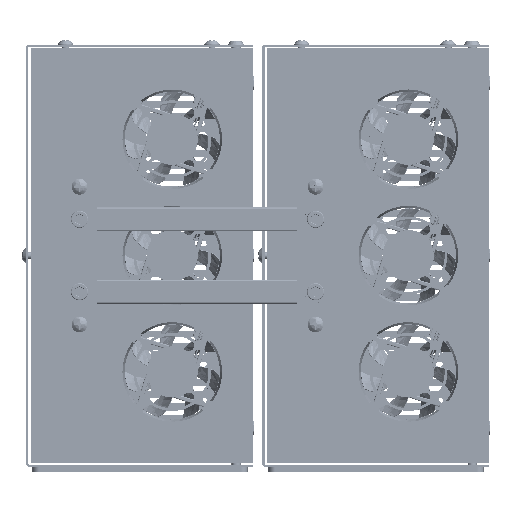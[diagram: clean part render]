
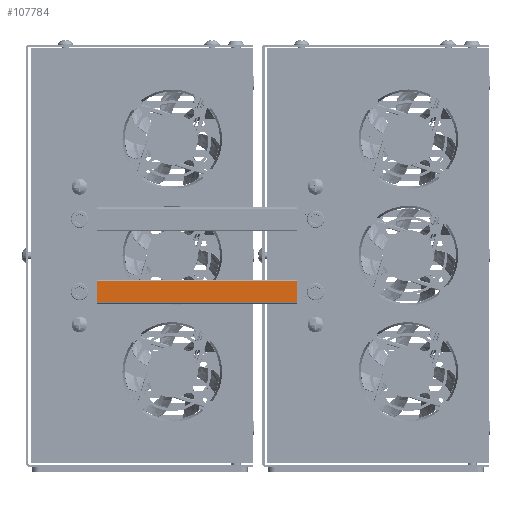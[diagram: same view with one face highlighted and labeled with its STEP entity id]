
A CAD part, left-side view. The second image highlights one B-rep face of the part: STEP entity #107784.
In plain terms, the highlighted planar face has unit normal (-1, 0, 0).
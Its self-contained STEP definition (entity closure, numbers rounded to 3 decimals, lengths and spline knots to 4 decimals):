
#9738=FACE_OUTER_BOUND('',#15702,.T.);
#15702=EDGE_LOOP('',(#72613,#72614,#72615,#72616));
#27279=LINE('',#154731,#36523);
#27280=LINE('',#154734,#36524);
#27281=LINE('',#154736,#36525);
#27282=LINE('',#154737,#36526);
#36523=VECTOR('',#124553,0.3937);
#36524=VECTOR('',#124556,0.3937);
#36525=VECTOR('',#124557,0.3937);
#36526=VECTOR('',#124558,0.3937);
#45755=VERTEX_POINT('',#154727);
#45756=VERTEX_POINT('',#154729);
#45757=VERTEX_POINT('',#154733);
#45758=VERTEX_POINT('',#154735);
#56313=EDGE_CURVE('',#45755,#45756,#27279,.T.);
#56314=EDGE_CURVE('',#45755,#45757,#27280,.T.);
#56315=EDGE_CURVE('',#45758,#45756,#27281,.T.);
#56316=EDGE_CURVE('',#45757,#45758,#27282,.T.);
#72613=ORIENTED_EDGE('',*,*,#56314,.F.);
#72614=ORIENTED_EDGE('',*,*,#56313,.T.);
#72615=ORIENTED_EDGE('',*,*,#56315,.F.);
#72616=ORIENTED_EDGE('',*,*,#56316,.F.);
#104613=PLANE('',#113816);
#107784=ADVANCED_FACE('',(#9738),#104613,.T.);
#113816=AXIS2_PLACEMENT_3D('',#154732,#124554,#124555);
#124553=DIRECTION('',(0.,1.,0.));
#124554=DIRECTION('center_axis',(-1.,0.,0.));
#124555=DIRECTION('ref_axis',(0.,0.,
1.));
#124556=DIRECTION('',(0.,0.,-1.));
#124557=DIRECTION('',(0.,0.,1.));
#124558=DIRECTION('',(0.,1.,0.));
#154727=CARTESIAN_POINT('',(-5.487,1.8204,-0.5793));
#154729=CARTESIAN_POINT('',(-5.487,6.3735,-0.5793));
#154731=CARTESIAN_POINT('',(-5.487,1.8204,-0.5793));
#154732=CARTESIAN_POINT('Origin',(-5.487,1.8204,-1.0518));
#154733=CARTESIAN_POINT('',(-5.487,1.8204,-1.0518));
#154734=CARTESIAN_POINT('',(-5.487,1.8204,-0.5793));
#154735=CARTESIAN_POINT('',(-5.487,6.3735,-1.0518));
#154736=CARTESIAN_POINT('',(-5.487,6.3735,-0.5793));
#154737=CARTESIAN_POINT('',(-5.487,1.8204,-1.0518));
